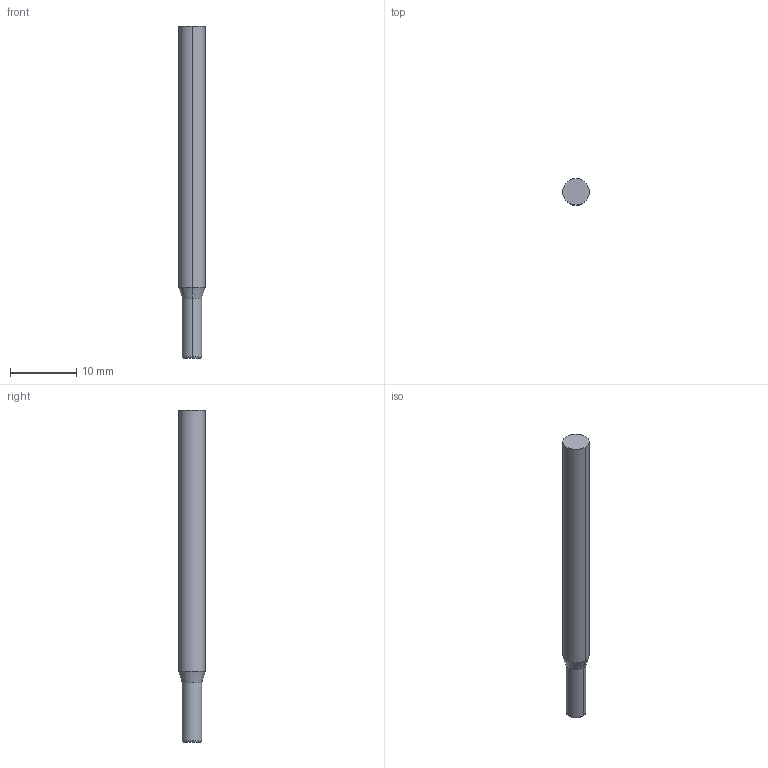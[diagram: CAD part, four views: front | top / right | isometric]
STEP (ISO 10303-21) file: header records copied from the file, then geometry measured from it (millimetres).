
FILE_DESCRIPTION((' '),'2;1');
FILE_NAME( '3MVRM0300R.20AH.stp', '2026-01-21T19:06:17', (' '), ('--- Datakit www.datakit.com---'), ' Datakit CrossCadWare V2025.4 Sep 19 2025', 'Mastercam 2027', ' ');
FILE_SCHEMA(('AUTOMOTIVE_DESIGN { 1 0 10303 214 1 1 1 1 }'));
Length unit declared in the file: inch
Products named in the file (1): 3MVRM0300R
Bounding box: 4 x 4 x 50 mm (x, y, z)
Volume: 574.2 mm3; surface area: 617.1 mm2
Topology: 1 solids, 1 shells, 10 faces, 18 edges, 10 vertices
Faces by surface type: cylinder 4, plane 2, torus 2, cone 2
Entity records: 318 total; most frequent: DIRECTION 60, CARTESIAN_POINT 43, ORIENTED_EDGE 36, AXIS2_PLACEMENT_3D 27, EDGE_CURVE 18, CIRCLE 12, VERTEX_POINT 10, EDGE_LOOP 10
